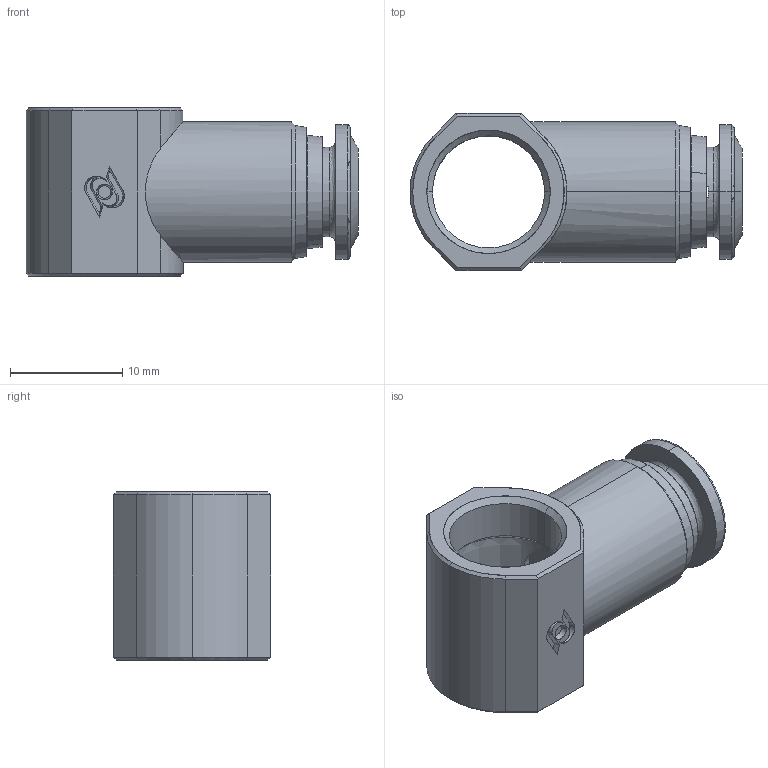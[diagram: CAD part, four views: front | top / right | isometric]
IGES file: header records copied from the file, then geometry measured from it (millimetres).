
Start section: SolidWorks IGES file using analytic representation for surfaces
Global section: file name: K:\Disegni Esecutivi\Serie 57000\ASSIEMI_57000\57500\ASSIEMI_PIENI_57500\5750000004.IGS; native system: SolidWorks 2008; preprocessor: SolidWorks 2008; author: cad02; date: 080212.153953; units: millimetre
Bounding box: 29.6 x 14 x 15 mm (x, y, z)
Surface area: 2190.8 mm2 (no closed solid volume)
Topology: 0 solids, 0 shells, 121 faces, 1396 edges, 1396 vertices
Faces by surface type: revolution 64, bspline 57
